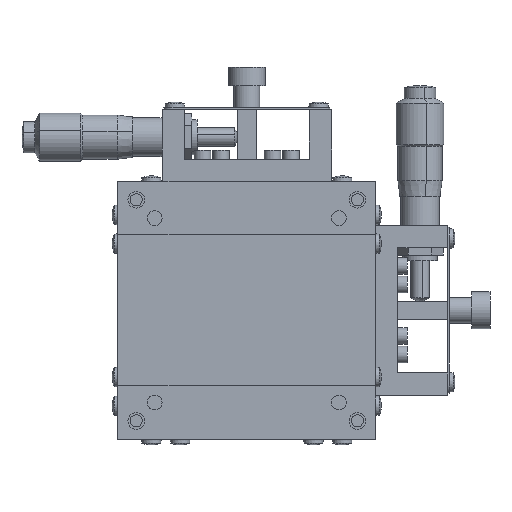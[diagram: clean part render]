
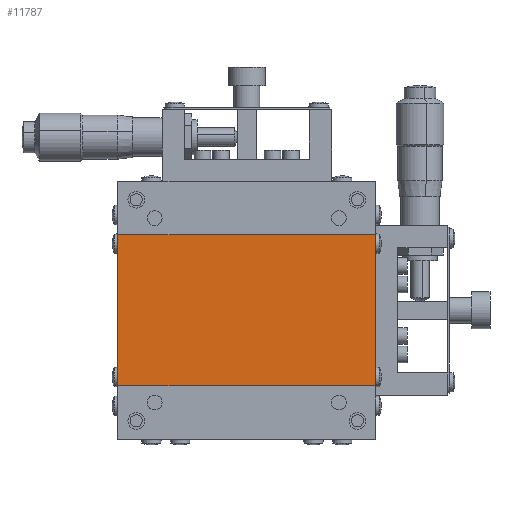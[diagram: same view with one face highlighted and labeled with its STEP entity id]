
A CAD part, front view. The second image highlights one B-rep face of the part: STEP entity #11787.
In plain terms, the highlighted planar face has unit normal (0, -1, 0).
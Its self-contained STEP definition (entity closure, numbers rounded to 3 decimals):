
#5721 = FACE_OUTER_BOUND ( 'NONE', #11788, .T. ) ;
#5811 = CARTESIAN_POINT ( 'NONE',  ( 35., 0.3, 20.5 ) ) ;
#5813 = DIRECTION ( 'NONE',  ( -1., 0., 0. ) ) ;
#5814 = VECTOR ( 'NONE', #5813, 1000. ) ;
#5815 = CARTESIAN_POINT ( 'NONE',  ( 35., 0.3, 20.5 ) ) ;
#5816 = LINE ( 'NONE', #5815, #5814 ) ;
#5817 = CARTESIAN_POINT ( 'NONE',  ( -35., 0.3, 20.5 ) ) ;
#5872 = DIRECTION ( 'NONE',  ( 0., 0., -1. ) ) ;
#5873 = VECTOR ( 'NONE', #5872, 1000. ) ;
#5874 = CARTESIAN_POINT ( 'NONE',  ( 35., 0.3, -20.5 ) ) ;
#5884 = LINE ( 'NONE', #5874, #5873 ) ;
#5885 = CARTESIAN_POINT ( 'NONE',  ( 35., 0.3, -20.5 ) ) ;
#5886 = DIRECTION ( 'NONE',  ( -1., 0., 0. ) ) ;
#5887 = VECTOR ( 'NONE', #5886, 1000. ) ;
#5888 = CARTESIAN_POINT ( 'NONE',  ( 35., 0.3, -20.5 ) ) ;
#5889 = LINE ( 'NONE', #5888, #5887 ) ;
#5890 = CARTESIAN_POINT ( 'NONE',  ( -35., 0.3, -20.5 ) ) ;
#5891 = DIRECTION ( 'NONE',  ( 0., 0., -1. ) ) ;
#5892 = VECTOR ( 'NONE', #5891, 1000. ) ;
#5893 = LINE ( 'NONE', #5898, #5892 ) ;
#5894 = DIRECTION ( 'NONE',  ( 0., 0., 1. ) ) ;
#5895 = DIRECTION ( 'NONE',  ( 0., 1., 0. ) ) ;
#5896 = CARTESIAN_POINT ( 'NONE',  ( 35., 0.3, -20.5 ) ) ;
#5897 = AXIS2_PLACEMENT_3D ( 'NONE', #5896, #5895, #5894 ) ;
#5898 = CARTESIAN_POINT ( 'NONE',  ( -35., 0.3, -20.5 ) ) ;
#5899 = PLANE ( 'NONE',  #5897 ) ;
#11787 = ADVANCED_FACE ( 'NONE', ( #5721 ), #5899, .F. ) ;
#11788 = EDGE_LOOP ( 'NONE', ( #11789, #11792, #11795, #11797 ) ) ;
#11789 = ORIENTED_EDGE ( 'NONE', *, *, #11790, .T. ) ;
#11790 = EDGE_CURVE ( 'NONE', #11822, #11791, #5893, .T. ) ;
#11791 = VERTEX_POINT ( 'NONE', #5890 ) ;
#11792 = ORIENTED_EDGE ( 'NONE', *, *, #11793, .F. ) ;
#11793 = EDGE_CURVE ( 'NONE', #11794, #11791, #5889, .T. ) ;
#11794 = VERTEX_POINT ( 'NONE', #5885 ) ;
#11795 = ORIENTED_EDGE ( 'NONE', *, *, #11796, .F. ) ;
#11796 = EDGE_CURVE ( 'NONE', #11825, #11794, #5884, .T. ) ;
#11797 = ORIENTED_EDGE ( 'NONE', *, *, #11824, .T. ) ;
#11822 = VERTEX_POINT ( 'NONE', #5817 ) ;
#11824 = EDGE_CURVE ( 'NONE', #11825, #11822, #5816, .T. ) ;
#11825 = VERTEX_POINT ( 'NONE', #5811 ) ;
